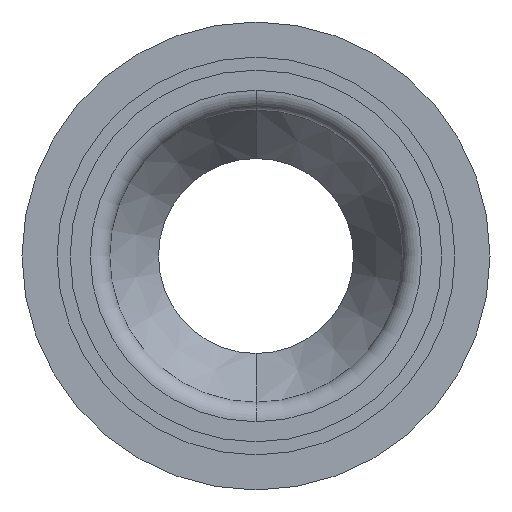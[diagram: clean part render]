
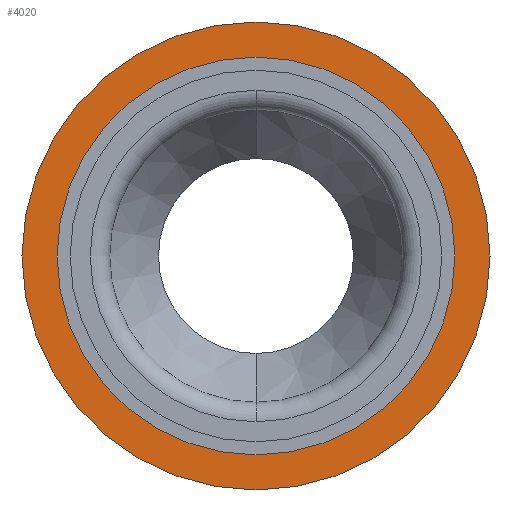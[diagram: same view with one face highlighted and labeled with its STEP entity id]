
A CAD part, front view. The second image highlights one B-rep face of the part: STEP entity #4020.
In plain terms, the highlighted planar face has unit normal (0, -1, 0).
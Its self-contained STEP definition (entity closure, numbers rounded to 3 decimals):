
#132 = CIRCLE ( 'NONE', #4161, 12. ) ;
#147 = DIRECTION ( 'NONE',  ( 0., 0., -1. ) ) ;
#188 = CIRCLE ( 'NONE', #2686, 12. ) ;
#329 = CARTESIAN_POINT ( 'NONE',  ( -423.93, -8722.704, 0. ) ) ;
#334 = DIRECTION ( 'NONE',  ( 0., 0., -1. ) ) ;
#824 = EDGE_CURVE ( 'NONE', #2984, #5402, #132, .T. ) ;
#910 = EDGE_LOOP ( 'NONE', ( #4770, #3320 ) ) ;
#1117 = DIRECTION ( 'NONE',  ( 0., -1., 0. ) ) ;
#1182 = FACE_BOUND ( 'NONE', #5596, .T. ) ;
#1251 = CIRCLE ( 'NONE', #2511, 9.53 ) ;
#1288 = CIRCLE ( 'NONE', #3628, 9.53 ) ;
#1309 = DIRECTION ( 'NONE',  ( 0., -1., 0. ) ) ;
#1477 = VERTEX_POINT ( 'NONE', #5209 ) ;
#1644 = CARTESIAN_POINT ( 'NONE',  ( -423.93, -8722.704, 0. ) ) ;
#1669 = VERTEX_POINT ( 'NONE', #3471 ) ;
#1873 = PLANE ( 'NONE',  #4415 ) ;
#2017 = ORIENTED_EDGE ( 'NONE', *, *, #6359, .F. ) ;
#2222 = DIRECTION ( 'NONE',  ( 0., 0., -1. ) ) ;
#2269 = DIRECTION ( 'NONE',  ( 0., -1., 0. ) ) ;
#2291 = EDGE_CURVE ( 'NONE', #1477, #1669, #1288, .T. ) ;
#2511 = AXIS2_PLACEMENT_3D ( 'NONE', #5257, #3799, #4288 ) ;
#2686 = AXIS2_PLACEMENT_3D ( 'NONE', #1644, #1117, #147 ) ;
#2743 = CARTESIAN_POINT ( 'NONE',  ( -423.93, -8722.704, 0. ) ) ;
#2879 = CARTESIAN_POINT ( 'NONE',  ( -423.93, -8722.704, -12. ) ) ;
#2984 = VERTEX_POINT ( 'NONE', #2879 ) ;
#3037 = FACE_OUTER_BOUND ( 'NONE', #910, .T. ) ;
#3164 = EDGE_CURVE ( 'NONE', #5402, #2984, #188, .T. ) ;
#3320 = ORIENTED_EDGE ( 'NONE', *, *, #3164, .T. ) ;
#3471 = CARTESIAN_POINT ( 'NONE',  ( -423.93, -8722.704, 9.53 ) ) ;
#3628 = AXIS2_PLACEMENT_3D ( 'NONE', #2743, #2269, #2222 ) ;
#3799 = DIRECTION ( 'NONE',  ( 0., -1., 0. ) ) ;
#4020 = ADVANCED_FACE ( 'NONE', ( #3037, #1182 ), #1873, .T. ) ;
#4161 = AXIS2_PLACEMENT_3D ( 'NONE', #329, #1309, #4748 ) ;
#4288 = DIRECTION ( 'NONE',  ( 0., 0., -1. ) ) ;
#4415 = AXIS2_PLACEMENT_3D ( 'NONE', #5778, #5232, #334 ) ;
#4748 = DIRECTION ( 'NONE',  ( 0., 0., -1. ) ) ;
#4770 = ORIENTED_EDGE ( 'NONE', *, *, #824, .T. ) ;
#5209 = CARTESIAN_POINT ( 'NONE',  ( -423.93, -8722.704, -9.53 ) ) ;
#5232 = DIRECTION ( 'NONE',  ( 0., -1., 0. ) ) ;
#5257 = CARTESIAN_POINT ( 'NONE',  ( -423.93, -8722.704, 0. ) ) ;
#5402 = VERTEX_POINT ( 'NONE', #6051 ) ;
#5596 = EDGE_LOOP ( 'NONE', ( #5597, #2017 ) ) ;
#5597 = ORIENTED_EDGE ( 'NONE', *, *, #2291, .F. ) ;
#5778 = CARTESIAN_POINT ( 'NONE',  ( 0., -8722.704, 0. ) ) ;
#6051 = CARTESIAN_POINT ( 'NONE',  ( -423.93, -8722.704, 12. ) ) ;
#6359 = EDGE_CURVE ( 'NONE', #1669, #1477, #1251, .T. ) ;
